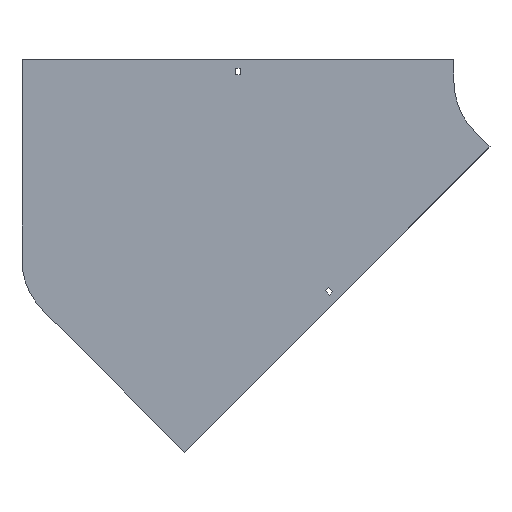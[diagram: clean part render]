
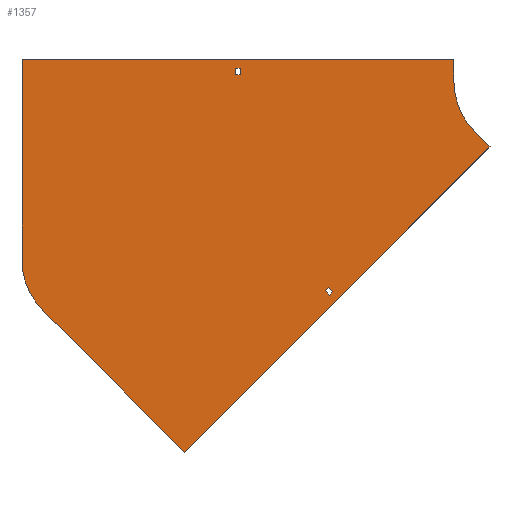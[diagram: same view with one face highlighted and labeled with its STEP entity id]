
A CAD part, front view. The second image highlights one B-rep face of the part: STEP entity #1357.
In plain terms, the highlighted planar face has unit normal (0, -1, 0).
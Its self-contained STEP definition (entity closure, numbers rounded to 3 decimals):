
#12 = EDGE_CURVE ( 'NONE', #1168, #183, #1156, .T. ) ;
#26 = LINE ( 'NONE', #893, #1077 ) ;
#28 = ORIENTED_EDGE ( 'NONE', *, *, #81, .F. ) ;
#52 = DIRECTION ( 'NONE',  ( -1., 0., 0. ) ) ;
#58 = VERTEX_POINT ( 'NONE', #977 ) ;
#62 = LINE ( 'NONE', #487, #1253 ) ;
#81 = EDGE_CURVE ( 'NONE', #1016, #1246, #734, .T. ) ;
#82 = DIRECTION ( 'NONE',  ( -0.707, 0., -0.707 ) ) ;
#97 = EDGE_CURVE ( 'NONE', #605, #58, #1407, .T. ) ;
#101 = CARTESIAN_POINT ( 'NONE',  ( -405.25, 0., 18. ) ) ;
#108 = ORIENTED_EDGE ( 'NONE', *, *, #503, .F. ) ;
#113 = EDGE_CURVE ( 'NONE', #310, #628, #848, .T. ) ;
#141 = EDGE_CURVE ( 'NONE', #628, #624, #987, .T. ) ;
#183 = VERTEX_POINT ( 'NONE', #326 ) ;
#196 = DIRECTION ( 'NONE',  ( 0., 1., 0. ) ) ;
#197 = ORIENTED_EDGE ( 'NONE', *, *, #1087, .F. ) ;
#207 = EDGE_CURVE ( 'NONE', #1103, #837, #26, .T. ) ;
#208 = DIRECTION ( 'NONE',  ( 0., 0., -1. ) ) ;
#211 = ORIENTED_EDGE ( 'NONE', *, *, #554, .T. ) ;
#215 = EDGE_CURVE ( 'NONE', #624, #1168, #1299, .T. ) ;
#228 = CARTESIAN_POINT ( 'NONE',  ( 0., 0., 0. ) ) ;
#235 = FACE_BOUND ( 'NONE', #827, .T. ) ;
#240 = VECTOR ( 'NONE', #748, 1000. ) ;
#244 = CARTESIAN_POINT ( 'NONE',  ( 0., 0., 0. ) ) ;
#257 = VECTOR ( 'NONE', #52, 1000. ) ;
#261 = VERTEX_POINT ( 'NONE', #1347 ) ;
#277 = CARTESIAN_POINT ( 'NONE',  ( -405.25, 0., 9. ) ) ;
#310 = VERTEX_POINT ( 'NONE', #1275 ) ;
#311 = CARTESIAN_POINT ( 'NONE',  ( -49.497, 0., -91.924 ) ) ;
#320 = VECTOR ( 'NONE', #208, 1000. ) ;
#326 = CARTESIAN_POINT ( 'NONE',  ( -476.59, 0., -519.016 ) ) ;
#334 = PLANE ( 'NONE',  #813 ) ;
#371 = VERTEX_POINT ( 'NONE', #660 ) ;
#388 = CARTESIAN_POINT ( 'NONE',  ( -273.827, 0., -299.283 ) ) ;
#394 = ORIENTED_EDGE ( 'NONE', *, *, #215, .F. ) ;
#419 = LINE ( 'NONE', #862, #896 ) ;
#432 = ORIENTED_EDGE ( 'NONE', *, *, #113, .F. ) ;
#441 = CARTESIAN_POINT ( 'NONE',  ( -704., 0., 30. ) ) ;
#449 = EDGE_CURVE ( 'NONE', #684, #310, #1309, .T. ) ;
#453 = VECTOR ( 'NONE', #504, 1000. ) ;
#477 = CARTESIAN_POINT ( 'NONE',  ( -275.595, 0., -288.323 ) ) ;
#482 = ORIENTED_EDGE ( 'NONE', *, *, #449, .F. ) ;
#484 = EDGE_CURVE ( 'NONE', #371, #1165, #1262, .T. ) ;
#487 = CARTESIAN_POINT ( 'NONE',  ( -476.59, 0., -519.016 ) ) ;
#498 = DIRECTION ( 'NONE',  ( 0., 0., 1. ) ) ;
#503 = EDGE_CURVE ( 'NONE', #261, #684, #1255, .T. ) ;
#504 = DIRECTION ( 'NONE',  ( -0.707, 0., -0.707 ) ) ;
#511 = CARTESIAN_POINT ( 'NONE',  ( -405.25, 0., 9. ) ) ;
#524 = CARTESIAN_POINT ( 'NONE',  ( -674.711, 0., -320.896 ) ) ;
#543 = CARTESIAN_POINT ( 'NONE',  ( -100., 0., 0. ) ) ;
#548 = DIRECTION ( 'NONE',  ( 0., 0., -1. ) ) ;
#553 = CARTESIAN_POINT ( 'NONE',  ( -704., 0., 30. ) ) ;
#554 = EDGE_CURVE ( 'NONE', #837, #605, #575, .T. ) ;
#575 = LINE ( 'NONE', #277, #257 ) ;
#586 = VECTOR ( 'NONE', #1023, 1000. ) ;
#596 = CARTESIAN_POINT ( 'NONE',  ( -280.191, 0., -292.919 ) ) ;
#601 = DIRECTION ( 'NONE',  ( 0.707, 0., 0.707 ) ) ;
#605 = VERTEX_POINT ( 'NONE', #769 ) ;
#613 = VECTOR ( 'NONE', #1155, 1000. ) ;
#624 = VERTEX_POINT ( 'NONE', #986 ) ;
#628 = VERTEX_POINT ( 'NONE', #543 ) ;
#629 = FACE_BOUND ( 'NONE', #716, .T. ) ;
#660 = CARTESIAN_POINT ( 'NONE',  ( -273.827, 0., -299.283 ) ) ;
#668 = CARTESIAN_POINT ( 'NONE',  ( -70.711, 0., -70.711 ) ) ;
#684 = VERTEX_POINT ( 'NONE', #553 ) ;
#706 = VECTOR ( 'NONE', #601, 1000. ) ;
#708 = DIRECTION ( 'NONE',  ( -0.707, 0., 0.707 ) ) ;
#716 = EDGE_LOOP ( 'NONE', ( #1354, #1378, #28, #933 ) ) ;
#719 = DIRECTION ( 'NONE',  ( -0.707, 0., 0.707 ) ) ;
#722 = VECTOR ( 'NONE', #972, 1000. ) ;
#734 = LINE ( 'NONE', #1051, #453 ) ;
#744 = CARTESIAN_POINT ( 'NONE',  ( -398.75, 0., 9. ) ) ;
#747 = VECTOR ( 'NONE', #498, 1000. ) ;
#748 = DIRECTION ( 'NONE',  ( 0.707, 0., -0.707 ) ) ;
#769 = CARTESIAN_POINT ( 'NONE',  ( -405.25, 0., 9. ) ) ;
#777 = ORIENTED_EDGE ( 'NONE', *, *, #97, .T. ) ;
#780 = DIRECTION ( 'NONE',  ( 0., 0., -1. ) ) ;
#813 = AXIS2_PLACEMENT_3D ( 'NONE', #228, #1294, #1086 ) ;
#816 = CARTESIAN_POINT ( 'NONE',  ( -398.75, 0., 18. ) ) ;
#827 = EDGE_LOOP ( 'NONE', ( #777, #1258, #1147, #211 ) ) ;
#837 = VERTEX_POINT ( 'NONE', #744 ) ;
#842 = DIRECTION ( 'NONE',  ( 0., 0., 1. ) ) ;
#846 = VECTOR ( 'NONE', #82, 1000. ) ;
#848 = LINE ( 'NONE', #1179, #320 ) ;
#859 = EDGE_CURVE ( 'NONE', #1165, #1016, #419, .T. ) ;
#862 = CARTESIAN_POINT ( 'NONE',  ( -275.595, 0., -288.323 ) ) ;
#888 = DIRECTION ( 'NONE',  ( 0., -1., 0. ) ) ;
#893 = CARTESIAN_POINT ( 'NONE',  ( -398.75, 0., 9. ) ) ;
#895 = VECTOR ( 'NONE', #1316, 1000. ) ;
#896 = VECTOR ( 'NONE', #719, 1000. ) ;
#916 = ORIENTED_EDGE ( 'NONE', *, *, #141, .F. ) ;
#922 = CARTESIAN_POINT ( 'NONE',  ( -704., 0., -250.185 ) ) ;
#933 = ORIENTED_EDGE ( 'NONE', *, *, #859, .F. ) ;
#966 = AXIS2_PLACEMENT_3D ( 'NONE', #1167, #196, #842 ) ;
#967 = ORIENTED_EDGE ( 'NONE', *, *, #1208, .F. ) ;
#972 = DIRECTION ( 'NONE',  ( 1., 0., 0. ) ) ;
#977 = CARTESIAN_POINT ( 'NONE',  ( -405.25, 0., 18. ) ) ;
#978 = FACE_OUTER_BOUND ( 'NONE', #1261, .T. ) ;
#986 = CARTESIAN_POINT ( 'NONE',  ( -70.711, 0., -70.711 ) ) ;
#987 = CIRCLE ( 'NONE', #1122, 100. ) ;
#1012 = CARTESIAN_POINT ( 'NONE',  ( -280.191, 0., -292.919 ) ) ;
#1016 = VERTEX_POINT ( 'NONE', #477 ) ;
#1023 = DIRECTION ( 'NONE',  ( 0.707, 0., -0.707 ) ) ;
#1029 = EDGE_CURVE ( 'NONE', #1246, #371, #1224, .T. ) ;
#1051 = CARTESIAN_POINT ( 'NONE',  ( -280.191, 0., -292.919 ) ) ;
#1077 = VECTOR ( 'NONE', #780, 1000. ) ;
#1086 = DIRECTION ( 'NONE',  ( 0., 0., -1. ) ) ;
#1087 = EDGE_CURVE ( 'NONE', #1171, #261, #1278, .T. ) ;
#1103 = VERTEX_POINT ( 'NONE', #816 ) ;
#1122 = AXIS2_PLACEMENT_3D ( 'NONE', #244, #888, #548 ) ;
#1147 = ORIENTED_EDGE ( 'NONE', *, *, #207, .T. ) ;
#1155 = DIRECTION ( 'NONE',  ( 0., 0., 1. ) ) ;
#1156 = LINE ( 'NONE', #1374, #846 ) ;
#1165 = VERTEX_POINT ( 'NONE', #1239 ) ;
#1166 = EDGE_CURVE ( 'NONE', #58, #1103, #1182, .T. ) ;
#1167 = CARTESIAN_POINT ( 'NONE',  ( -604., 0., -250.185 ) ) ;
#1168 = VERTEX_POINT ( 'NONE', #311 ) ;
#1171 = VERTEX_POINT ( 'NONE', #524 ) ;
#1179 = CARTESIAN_POINT ( 'NONE',  ( -100., 0., 30. ) ) ;
#1182 = LINE ( 'NONE', #101, #722 ) ;
#1208 = EDGE_CURVE ( 'NONE', #183, #1171, #62, .T. ) ;
#1224 = LINE ( 'NONE', #1012, #586 ) ;
#1239 = CARTESIAN_POINT ( 'NONE',  ( -269.231, 0., -294.687 ) ) ;
#1246 = VERTEX_POINT ( 'NONE', #596 ) ;
#1253 = VECTOR ( 'NONE', #708, 1000. ) ;
#1255 = LINE ( 'NONE', #922, #613 ) ;
#1258 = ORIENTED_EDGE ( 'NONE', *, *, #1166, .T. ) ;
#1261 = EDGE_LOOP ( 'NONE', ( #482, #108, #197, #967, #1406, #394, #916, #432 ) ) ;
#1262 = LINE ( 'NONE', #388, #706 ) ;
#1275 = CARTESIAN_POINT ( 'NONE',  ( -100., 0., 30. ) ) ;
#1278 = CIRCLE ( 'NONE', #966, 100. ) ;
#1294 = DIRECTION ( 'NONE',  ( 0., -1., 0. ) ) ;
#1299 = LINE ( 'NONE', #668, #240 ) ;
#1309 = LINE ( 'NONE', #441, #895 ) ;
#1316 = DIRECTION ( 'NONE',  ( 1., 0., 0. ) ) ;
#1347 = CARTESIAN_POINT ( 'NONE',  ( -704., 0., -250.185 ) ) ;
#1354 = ORIENTED_EDGE ( 'NONE', *, *, #484, .F. ) ;
#1357 = ADVANCED_FACE ( 'NONE', ( #235, #978, #629 ), #334, .T. ) ;
#1374 = CARTESIAN_POINT ( 'NONE',  ( -49.497, 0., -91.924 ) ) ;
#1378 = ORIENTED_EDGE ( 'NONE', *, *, #1029, .F. ) ;
#1406 = ORIENTED_EDGE ( 'NONE', *, *, #12, .F. ) ;
#1407 = LINE ( 'NONE', #511, #747 ) ;
